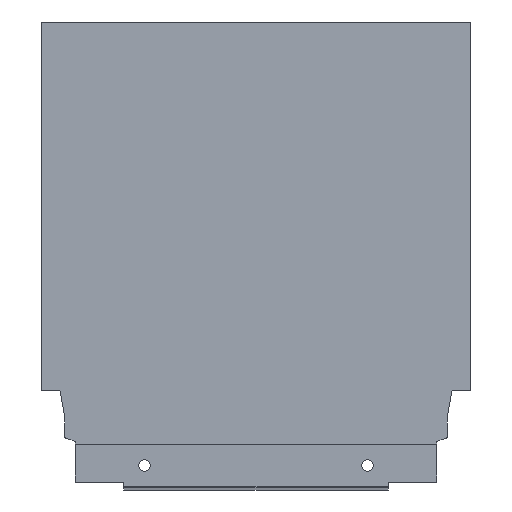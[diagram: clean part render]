
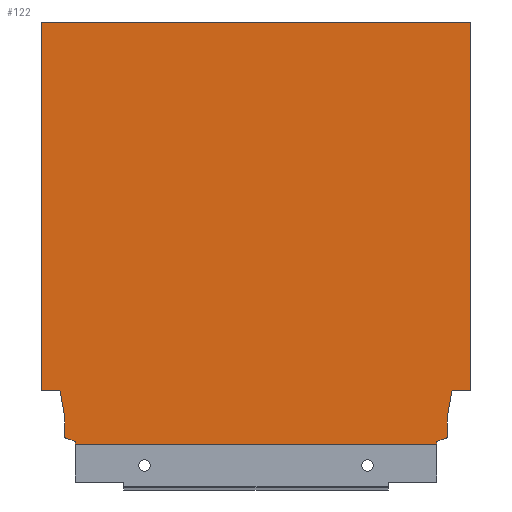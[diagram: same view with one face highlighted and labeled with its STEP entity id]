
A CAD part, top view. The second image highlights one B-rep face of the part: STEP entity #122.
In plain terms, the highlighted planar face has unit normal (0, 0, 1).
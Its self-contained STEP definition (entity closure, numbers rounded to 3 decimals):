
#15 = EDGE_CURVE ( 'NONE', #310, #355, #1146, .T. ) ;
#16 = EDGE_CURVE ( 'NONE', #310, #308, #1127, .T. ) ;
#17 = EDGE_CURVE ( 'NONE', #365, #319, #1142, .T. ) ;
#71 = AXIS2_PLACEMENT_3D ( 'NONE', #554, #560, #561 ) ;
#122 = ADVANCED_FACE ( 'NONE', ( #1046 ), #551, .T. ) ;
#141 = DIRECTION ( 'NONE',  ( 0., 1., 0. ) ) ;
#146 = CARTESIAN_POINT ( 'NONE',  ( -158.1, 10.765, 7.5 ) ) ;
#153 = DIRECTION ( 'NONE',  ( -0.94, 0.342, 0. ) ) ;
#157 = DIRECTION ( 'NONE',  ( 0., -1., 0. ) ) ;
#158 = CARTESIAN_POINT ( 'NONE',  ( 0., 0., 7.5 ) ) ;
#159 = DIRECTION ( 'NONE',  ( 0., -1., 0. ) ) ;
#166 = CARTESIAN_POINT ( 'NONE',  ( -158.1, 2.64, 7.5 ) ) ;
#168 = CARTESIAN_POINT ( 'NONE',  ( -8.9, 10.765, 7.5 ) ) ;
#171 = DIRECTION ( 'NONE',  ( -1., 0., 0. ) ) ;
#188 = CARTESIAN_POINT ( 'NONE',  ( -167., 164.7, 7.5 ) ) ;
#196 = DIRECTION ( 'NONE',  ( 1., 0., 0. ) ) ;
#201 = CARTESIAN_POINT ( 'NONE',  ( -8.9, 2.64, 7.5 ) ) ;
#202 = DIRECTION ( 'NONE',  ( -0.94, -0.342, 0. ) ) ;
#286 = VERTEX_POINT ( 'NONE', #613 ) ;
#290 = VERTEX_POINT ( 'NONE', #618 ) ;
#302 = VERTEX_POINT ( 'NONE', #629 ) ;
#303 = VERTEX_POINT ( 'NONE', #630 ) ;
#308 = VERTEX_POINT ( 'NONE', #635 ) ;
#310 = VERTEX_POINT ( 'NONE', #637 ) ;
#319 = VERTEX_POINT ( 'NONE', #646 ) ;
#341 = VERTEX_POINT ( 'NONE', #668 ) ;
#345 = VERTEX_POINT ( 'NONE', #672 ) ;
#347 = VERTEX_POINT ( 'NONE', #674 ) ;
#355 = VERTEX_POINT ( 'NONE', #682 ) ;
#361 = VERTEX_POINT ( 'NONE', #688 ) ;
#362 = VERTEX_POINT ( 'NONE', #689 ) ;
#365 = VERTEX_POINT ( 'NONE', #692 ) ;
#393 = CARTESIAN_POINT ( 'NONE',  ( -153.996, 1.146, 7.5 ) ) ;
#397 = CARTESIAN_POINT ( 'NONE',  ( -159.94, 21.2, 7.5 ) ) ;
#398 = DIRECTION ( 'NONE',  ( 0., 1., 0. ) ) ;
#399 = CARTESIAN_POINT ( 'NONE',  ( -167., 0., 7.5 ) ) ;
#400 = DIRECTION ( 'NONE',  ( 1., 0., 0. ) ) ;
#403 = DIRECTION ( 'NONE',  ( -0.174, 0.985, 0. ) ) ;
#551 = PLANE ( 'NONE',  #71 ) ;
#554 = CARTESIAN_POINT ( 'NONE',  ( -167., 0., 7.5 ) ) ;
#560 = DIRECTION ( 'NONE',  ( 0., 0., 1. ) ) ;
#561 = DIRECTION ( 'NONE',  ( 1., 0., 0. ) ) ;
#613 = CARTESIAN_POINT ( 'NONE',  ( -158.1, 2.64, 7.5 ) ) ;
#618 = CARTESIAN_POINT ( 'NONE',  ( -7.06, 21.2, 7.5 ) ) ;
#629 = CARTESIAN_POINT ( 'NONE',  ( 0., 21.2, 7.5 ) ) ;
#630 = CARTESIAN_POINT ( 'NONE',  ( -8.9, 2.64, 7.5 ) ) ;
#635 = CARTESIAN_POINT ( 'NONE',  ( -13.004, 0., 7.5 ) ) ;
#637 = CARTESIAN_POINT ( 'NONE',  ( -153.996, 0., 7.5 ) ) ;
#646 = CARTESIAN_POINT ( 'NONE',  ( -159.94, 21.2, 7.5 ) ) ;
#668 = CARTESIAN_POINT ( 'NONE',  ( 0., 164.7, 7.5 ) ) ;
#672 = CARTESIAN_POINT ( 'NONE',  ( -167., 21.2, 7.5 ) ) ;
#674 = CARTESIAN_POINT ( 'NONE',  ( -13.004, 1.146, 7.5 ) ) ;
#682 = CARTESIAN_POINT ( 'NONE',  ( -153.996, 1.146, 7.5 ) ) ;
#688 = CARTESIAN_POINT ( 'NONE',  ( -167., 164.7, 7.5 ) ) ;
#689 = CARTESIAN_POINT ( 'NONE',  ( -8.9, 10.765, 7.5 ) ) ;
#692 = CARTESIAN_POINT ( 'NONE',  ( -158.1, 10.765, 7.5 ) ) ;
#754 = CARTESIAN_POINT ( 'NONE',  ( -7.06, 21.2, 7.5 ) ) ;
#758 = DIRECTION ( 'NONE',  ( -0.174, -0.985, 0. ) ) ;
#759 = CARTESIAN_POINT ( 'NONE',  ( -167., 0., 7.5 ) ) ;
#760 = DIRECTION ( 'NONE',  ( 0., -1., 0. ) ) ;
#761 = CARTESIAN_POINT ( 'NONE',  ( 0., 21.2, 7.5 ) ) ;
#762 = DIRECTION ( 'NONE',  ( -1., 0., 0. ) ) ;
#763 = CARTESIAN_POINT ( 'NONE',  ( -13.004, 1.146, 7.5 ) ) ;
#764 = DIRECTION ( 'NONE',  ( 0., -1., 0. ) ) ;
#765 = CARTESIAN_POINT ( 'NONE',  ( -172., 21.2, 7.5 ) ) ;
#796 = EDGE_CURVE ( 'NONE', #290, #362, #983, .T. ) ;
#797 = EDGE_CURVE ( 'NONE', #361, #345, #968, .T. ) ;
#798 = EDGE_CURVE ( 'NONE', #302, #290, #966, .T. ) ;
#799 = EDGE_CURVE ( 'NONE', #347, #308, #964, .T. ) ;
#800 = EDGE_CURVE ( 'NONE', #319, #345, #962, .T. ) ;
#801 = EDGE_CURVE ( 'NONE', #286, #365, #960, .T. ) ;
#805 = EDGE_CURVE ( 'NONE', #362, #303, #969, .T. ) ;
#807 = EDGE_CURVE ( 'NONE', #355, #286, #955, .T. ) ;
#808 = EDGE_CURVE ( 'NONE', #361, #341, #946, .T. ) ;
#810 = EDGE_CURVE ( 'NONE', #341, #302, #942, .T. ) ;
#813 = EDGE_CURVE ( 'NONE', #303, #347, #928, .T. ) ;
#908 = EDGE_LOOP ( 'NONE', ( #1229, #1234, #1274, #1273, #1237, #1230, #1231, #1232, #1219, #1264, #1241, #1265, #1242, #1270 ) ) ;
#927 = VECTOR ( 'NONE', #202, 1000. ) ;
#928 = LINE ( 'NONE', #201, #927 ) ;
#941 = VECTOR ( 'NONE', #157, 1000. ) ;
#942 = LINE ( 'NONE', #158, #941 ) ;
#945 = VECTOR ( 'NONE', #196, 1000. ) ;
#946 = LINE ( 'NONE', #188, #945 ) ;
#948 = VECTOR ( 'NONE', #153, 1000. ) ;
#952 = VECTOR ( 'NONE', #159, 1000. ) ;
#955 = LINE ( 'NONE', #166, #948 ) ;
#959 = VECTOR ( 'NONE', #141, 1000. ) ;
#960 = LINE ( 'NONE', #146, #959 ) ;
#961 = VECTOR ( 'NONE', #171, 1000. ) ;
#962 = LINE ( 'NONE', #765, #961 ) ;
#963 = VECTOR ( 'NONE', #764, 1000. ) ;
#964 = LINE ( 'NONE', #763, #963 ) ;
#965 = VECTOR ( 'NONE', #762, 1000. ) ;
#966 = LINE ( 'NONE', #761, #965 ) ;
#967 = VECTOR ( 'NONE', #760, 1000. ) ;
#968 = LINE ( 'NONE', #759, #967 ) ;
#969 = LINE ( 'NONE', #168, #952 ) ;
#970 = VECTOR ( 'NONE', #758, 1000. ) ;
#983 = LINE ( 'NONE', #754, #970 ) ;
#1046 = FACE_OUTER_BOUND ( 'NONE', #908, .T. ) ;
#1125 = VECTOR ( 'NONE', #403, 1000. ) ;
#1126 = VECTOR ( 'NONE', #400, 1000. ) ;
#1127 = LINE ( 'NONE', #399, #1126 ) ;
#1129 = VECTOR ( 'NONE', #398, 1000. ) ;
#1142 = LINE ( 'NONE', #397, #1125 ) ;
#1146 = LINE ( 'NONE', #393, #1129 ) ;
#1219 = ORIENTED_EDGE ( 'NONE', *, *, #813, .F. ) ;
#1229 = ORIENTED_EDGE ( 'NONE', *, *, #797, .T. ) ;
#1230 = ORIENTED_EDGE ( 'NONE', *, *, #15, .F. ) ;
#1231 = ORIENTED_EDGE ( 'NONE', *, *, #16, .T. ) ;
#1232 = ORIENTED_EDGE ( 'NONE', *, *, #799, .F. ) ;
#1234 = ORIENTED_EDGE ( 'NONE', *, *, #800, .F. ) ;
#1237 = ORIENTED_EDGE ( 'NONE', *, *, #807, .F. ) ;
#1241 = ORIENTED_EDGE ( 'NONE', *, *, #796, .F. ) ;
#1242 = ORIENTED_EDGE ( 'NONE', *, *, #810, .F. ) ;
#1264 = ORIENTED_EDGE ( 'NONE', *, *, #805, .F. ) ;
#1265 = ORIENTED_EDGE ( 'NONE', *, *, #798, .F. ) ;
#1270 = ORIENTED_EDGE ( 'NONE', *, *, #808, .F. ) ;
#1273 = ORIENTED_EDGE ( 'NONE', *, *, #801, .F. ) ;
#1274 = ORIENTED_EDGE ( 'NONE', *, *, #17, .F. ) ;
